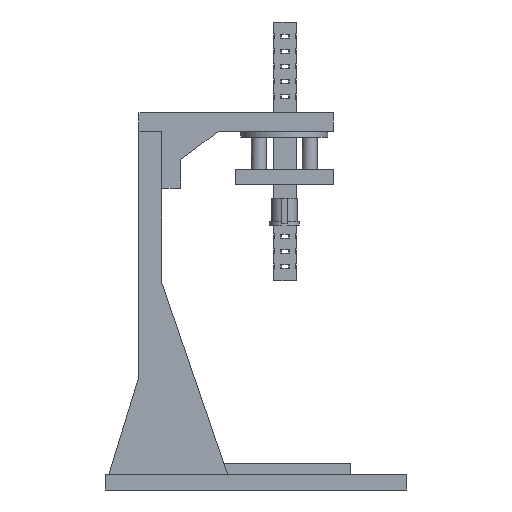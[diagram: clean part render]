
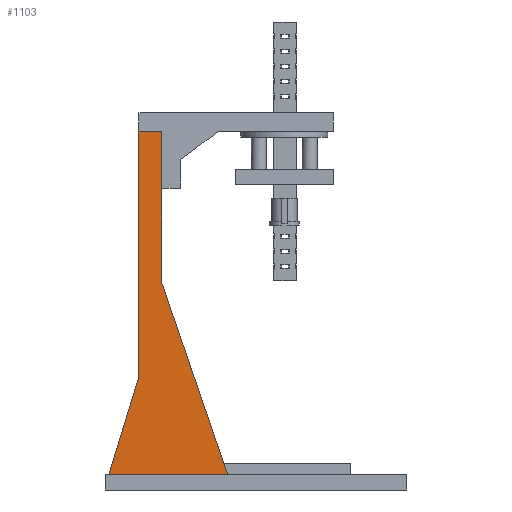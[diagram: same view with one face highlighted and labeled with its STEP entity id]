
A CAD part, left-side view. The second image highlights one B-rep face of the part: STEP entity #1103.
In plain terms, the highlighted planar face has unit normal (-1, 0, 0).
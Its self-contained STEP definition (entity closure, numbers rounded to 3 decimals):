
#160 = PLANE('',#161);
#161 = AXIS2_PLACEMENT_3D('',#162,#163,#164);
#162 = CARTESIAN_POINT('',(0.,0.,8.));
#163 = DIRECTION('',(0.,0.,1.));
#164 = DIRECTION('',(1.,0.,0.));
#414 = VERTEX_POINT('',#415);
#415 = CARTESIAN_POINT('',(45.,95.,8.));
#431 = PLANE('',#432);
#432 = AXIS2_PLACEMENT_3D('',#433,#434,#435);
#433 = CARTESIAN_POINT('',(45.,130.,110.));
#434 = DIRECTION('',(0.,0.946,-0.325));
#435 = DIRECTION('',(0.,-0.325,-0.946));
#443 = EDGE_CURVE('',#414,#444,#446,.T.);
#444 = VERTEX_POINT('',#445);
#445 = CARTESIAN_POINT('',(45.,158.,8.));
#446 = SURFACE_CURVE('',#447,(#451,#458),.PCURVE_S1.);
#447 = LINE('',#448,#449);
#448 = CARTESIAN_POINT('',(45.,95.,8.));
#449 = VECTOR('',#450,1.);
#450 = DIRECTION('',(0.,1.,0.));
#451 = PCURVE('',#160,#452);
#452 = DEFINITIONAL_REPRESENTATION('',(#453),#457);
#453 = LINE('',#454,#455);
#454 = CARTESIAN_POINT('',(45.,95.));
#455 = VECTOR('',#456,1.);
#456 = DIRECTION('',(0.,1.));
#457 = ( GEOMETRIC_REPRESENTATION_CONTEXT(2) 
PARAMETRIC_REPRESENTATION_CONTEXT() REPRESENTATION_CONTEXT('2D SPACE',''
  ) );
#458 = PCURVE('',#459,#464);
#459 = PLANE('',#460);
#460 = AXIS2_PLACEMENT_3D('',#461,#462,#463);
#461 = CARTESIAN_POINT('',(45.,146.601,30.601));
#462 = DIRECTION('',(1.,0.,0.));
#463 = DIRECTION('',(-0.,0.,1.));
#464 = DEFINITIONAL_REPRESENTATION('',(#465),#469);
#465 = LINE('',#466,#467);
#466 = CARTESIAN_POINT('',(-22.601,51.601));
#467 = VECTOR('',#468,1.);
#468 = DIRECTION('',(0.,-1.));
#469 = ( GEOMETRIC_REPRESENTATION_CONTEXT(2) 
PARAMETRIC_REPRESENTATION_CONTEXT() REPRESENTATION_CONTEXT('2D SPACE',''
  ) );
#487 = PLANE('',#488);
#488 = AXIS2_PLACEMENT_3D('',#489,#490,#491);
#489 = CARTESIAN_POINT('',(45.,158.,8.));
#490 = DIRECTION('',(0.,-0.956,-0.294));
#491 = DIRECTION('',(0.,-0.294,0.956));
#543 = PLANE('',#544);
#544 = AXIS2_PLACEMENT_3D('',#545,#546,#547);
#545 = CARTESIAN_POINT('',(45.,142.,8.));
#546 = DIRECTION('',(0.,1.,0.));
#547 = DIRECTION('',(0.,0.,1.));
#711 = PLANE('',#712);
#712 = AXIS2_PLACEMENT_3D('',#713,#714,#715);
#713 = CARTESIAN_POINT('',(45.,130.,8.));
#714 = DIRECTION('',(0.,1.,0.));
#715 = DIRECTION('',(0.,0.,1.));
#1037 = VERTEX_POINT('',#1038);
#1038 = CARTESIAN_POINT('',(45.,130.,110.));
#1083 = EDGE_CURVE('',#1037,#414,#1084,.T.);
#1084 = SURFACE_CURVE('',#1085,(#1089,#1096),.PCURVE_S1.);
#1085 = LINE('',#1086,#1087);
#1086 = CARTESIAN_POINT('',(45.,130.,110.));
#1087 = VECTOR('',#1088,1.);
#1088 = DIRECTION('',(0.,-0.325,-0.946));
#1089 = PCURVE('',#431,#1090);
#1090 = DEFINITIONAL_REPRESENTATION('',(#1091),#1095);
#1091 = LINE('',#1092,#1093);
#1092 = CARTESIAN_POINT('',(0.,0.));
#1093 = VECTOR('',#1094,1.);
#1094 = DIRECTION('',(1.,0.));
#1095 = ( GEOMETRIC_REPRESENTATION_CONTEXT(2) 
PARAMETRIC_REPRESENTATION_CONTEXT() REPRESENTATION_CONTEXT('2D SPACE',''
  ) );
#1096 = PCURVE('',#459,#1097);
#1097 = DEFINITIONAL_REPRESENTATION('',(#1098),#1102);
#1098 = LINE('',#1099,#1100);
#1099 = CARTESIAN_POINT('',(79.399,16.601));
#1100 = VECTOR('',#1101,1.);
#1101 = DIRECTION('',(-0.946,0.325));
#1102 = ( GEOMETRIC_REPRESENTATION_CONTEXT(2) 
PARAMETRIC_REPRESENTATION_CONTEXT() REPRESENTATION_CONTEXT('2D SPACE',''
  ) );
#1103 = ADVANCED_FACE('',(#1104),#459,.F.);
#1104 = FACE_BOUND('',#1105,.F.);
#1105 = EDGE_LOOP('',(#1106,#1129,#1152,#1180,#1201,#1202));
#1106 = ORIENTED_EDGE('',*,*,#1107,.T.);
#1107 = EDGE_CURVE('',#444,#1108,#1110,.T.);
#1108 = VERTEX_POINT('',#1109);
#1109 = CARTESIAN_POINT('',(45.,142.,60.));
#1110 = SURFACE_CURVE('',#1111,(#1115,#1122),.PCURVE_S1.);
#1111 = LINE('',#1112,#1113);
#1112 = CARTESIAN_POINT('',(45.,158.,8.));
#1113 = VECTOR('',#1114,1.);
#1114 = DIRECTION('',(0.,-0.294,0.956));
#1115 = PCURVE('',#459,#1116);
#1116 = DEFINITIONAL_REPRESENTATION('',(#1117),#1121);
#1117 = LINE('',#1118,#1119);
#1118 = CARTESIAN_POINT('',(-22.601,-11.399));
#1119 = VECTOR('',#1120,1.);
#1120 = DIRECTION('',(0.956,0.294));
#1121 = ( GEOMETRIC_REPRESENTATION_CONTEXT(2) 
PARAMETRIC_REPRESENTATION_CONTEXT() REPRESENTATION_CONTEXT('2D SPACE',''
  ) );
#1122 = PCURVE('',#487,#1123);
#1123 = DEFINITIONAL_REPRESENTATION('',(#1124),#1128);
#1124 = LINE('',#1125,#1126);
#1125 = CARTESIAN_POINT('',(0.,0.));
#1126 = VECTOR('',#1127,1.);
#1127 = DIRECTION('',(1.,0.));
#1128 = ( GEOMETRIC_REPRESENTATION_CONTEXT(2) 
PARAMETRIC_REPRESENTATION_CONTEXT() REPRESENTATION_CONTEXT('2D SPACE',''
  ) );
#1129 = ORIENTED_EDGE('',*,*,#1130,.T.);
#1130 = EDGE_CURVE('',#1108,#1131,#1133,.T.);
#1131 = VERTEX_POINT('',#1132);
#1132 = CARTESIAN_POINT('',(45.,142.,190.));
#1133 = SURFACE_CURVE('',#1134,(#1138,#1145),.PCURVE_S1.);
#1134 = LINE('',#1135,#1136);
#1135 = CARTESIAN_POINT('',(45.,142.,8.));
#1136 = VECTOR('',#1137,1.);
#1137 = DIRECTION('',(0.,0.,1.));
#1138 = PCURVE('',#459,#1139);
#1139 = DEFINITIONAL_REPRESENTATION('',(#1140),#1144);
#1140 = LINE('',#1141,#1142);
#1141 = CARTESIAN_POINT('',(-22.601,4.601));
#1142 = VECTOR('',#1143,1.);
#1143 = DIRECTION('',(1.,0.));
#1144 = ( GEOMETRIC_REPRESENTATION_CONTEXT(2) 
PARAMETRIC_REPRESENTATION_CONTEXT() REPRESENTATION_CONTEXT('2D SPACE',''
  ) );
#1145 = PCURVE('',#543,#1146);
#1146 = DEFINITIONAL_REPRESENTATION('',(#1147),#1151);
#1147 = LINE('',#1148,#1149);
#1148 = CARTESIAN_POINT('',(0.,0.));
#1149 = VECTOR('',#1150,1.);
#1150 = DIRECTION('',(1.,0.));
#1151 = ( GEOMETRIC_REPRESENTATION_CONTEXT(2) 
PARAMETRIC_REPRESENTATION_CONTEXT() REPRESENTATION_CONTEXT('2D SPACE',''
  ) );
#1152 = ORIENTED_EDGE('',*,*,#1153,.F.);
#1153 = EDGE_CURVE('',#1154,#1131,#1156,.T.);
#1154 = VERTEX_POINT('',#1155);
#1155 = CARTESIAN_POINT('',(45.,130.,190.));
#1156 = SURFACE_CURVE('',#1157,(#1161,#1168),.PCURVE_S1.);
#1157 = LINE('',#1158,#1159);
#1158 = CARTESIAN_POINT('',(45.,130.,190.));
#1159 = VECTOR('',#1160,1.);
#1160 = DIRECTION('',(0.,1.,0.));
#1161 = PCURVE('',#459,#1162);
#1162 = DEFINITIONAL_REPRESENTATION('',(#1163),#1167);
#1163 = LINE('',#1164,#1165);
#1164 = CARTESIAN_POINT('',(159.399,16.601));
#1165 = VECTOR('',#1166,1.);
#1166 = DIRECTION('',(0.,-1.));
#1167 = ( GEOMETRIC_REPRESENTATION_CONTEXT(2) 
PARAMETRIC_REPRESENTATION_CONTEXT() REPRESENTATION_CONTEXT('2D SPACE',''
  ) );
#1168 = PCURVE('',#1169,#1174);
#1169 = PLANE('',#1170);
#1170 = AXIS2_PLACEMENT_3D('',#1171,#1172,#1173);
#1171 = CARTESIAN_POINT('',(45.,130.,190.));
#1172 = DIRECTION('',(0.,0.,1.));
#1173 = DIRECTION('',(1.,0.,0.));
#1174 = DEFINITIONAL_REPRESENTATION('',(#1175),#1179);
#1175 = LINE('',#1176,#1177);
#1176 = CARTESIAN_POINT('',(0.,0.));
#1177 = VECTOR('',#1178,1.);
#1178 = DIRECTION('',(0.,1.));
#1179 = ( GEOMETRIC_REPRESENTATION_CONTEXT(2) 
PARAMETRIC_REPRESENTATION_CONTEXT() REPRESENTATION_CONTEXT('2D SPACE',''
  ) );
#1180 = ORIENTED_EDGE('',*,*,#1181,.F.);
#1181 = EDGE_CURVE('',#1037,#1154,#1182,.T.);
#1182 = SURFACE_CURVE('',#1183,(#1187,#1194),.PCURVE_S1.);
#1183 = LINE('',#1184,#1185);
#1184 = CARTESIAN_POINT('',(45.,130.,8.));
#1185 = VECTOR('',#1186,1.);
#1186 = DIRECTION('',(0.,0.,1.));
#1187 = PCURVE('',#459,#1188);
#1188 = DEFINITIONAL_REPRESENTATION('',(#1189),#1193);
#1189 = LINE('',#1190,#1191);
#1190 = CARTESIAN_POINT('',(-22.601,16.601));
#1191 = VECTOR('',#1192,1.);
#1192 = DIRECTION('',(1.,0.));
#1193 = ( GEOMETRIC_REPRESENTATION_CONTEXT(2) 
PARAMETRIC_REPRESENTATION_CONTEXT() REPRESENTATION_CONTEXT('2D SPACE',''
  ) );
#1194 = PCURVE('',#711,#1195);
#1195 = DEFINITIONAL_REPRESENTATION('',(#1196),#1200);
#1196 = LINE('',#1197,#1198);
#1197 = CARTESIAN_POINT('',(0.,0.));
#1198 = VECTOR('',#1199,1.);
#1199 = DIRECTION('',(1.,0.));
#1200 = ( GEOMETRIC_REPRESENTATION_CONTEXT(2) 
PARAMETRIC_REPRESENTATION_CONTEXT() REPRESENTATION_CONTEXT('2D SPACE',''
  ) );
#1201 = ORIENTED_EDGE('',*,*,#1083,.T.);
#1202 = ORIENTED_EDGE('',*,*,#443,.T.);
